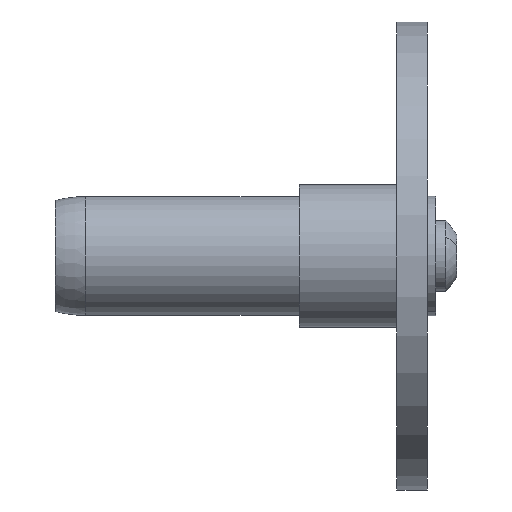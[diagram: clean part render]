
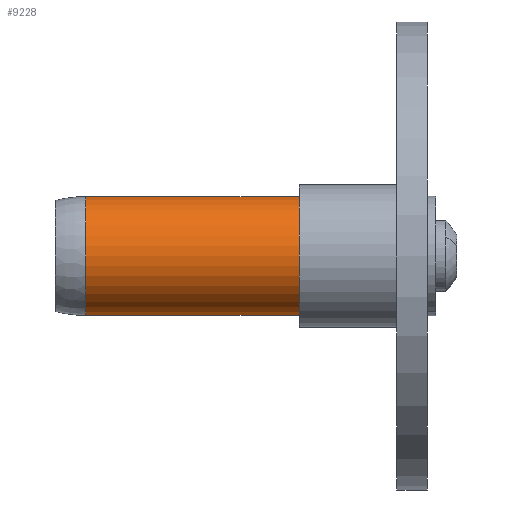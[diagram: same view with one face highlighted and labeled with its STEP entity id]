
A CAD part, front view. The second image highlights one B-rep face of the part: STEP entity #9228.
In plain terms, the highlighted cylindrical face has radius 9.271 mm (diameter 18.542 mm), a partial arc.
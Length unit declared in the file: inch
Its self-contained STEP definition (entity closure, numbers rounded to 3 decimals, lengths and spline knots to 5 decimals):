
#105 = DIRECTION ( 'NONE',  ( -1., 0., 0. ) ) ;
#482 = ORIENTED_EDGE ( 'NONE', *, *, #8325, .F. ) ;
#1712 = EDGE_LOOP ( 'NONE', ( #482, #10857, #10652, #13072 ) ) ;
#1782 = AXIS2_PLACEMENT_3D ( 'NONE', #8315, #12626, #2798 ) ;
#1838 = CARTESIAN_POINT ( 'NONE',  ( -2.0625, 0., -0.365 ) ) ;
#1948 = VERTEX_POINT ( 'NONE', #1838 ) ;
#1993 = VECTOR ( 'NONE', #105, 39.37008 ) ;
#2027 = VERTEX_POINT ( 'NONE', #7420 ) ;
#2798 = DIRECTION ( 'NONE',  ( 0., 0., 1. ) ) ;
#2830 = EDGE_CURVE ( 'NONE', #2027, #6862, #9760, .T. ) ;
#3890 = DIRECTION ( 'NONE',  ( -1., 0., 0. ) ) ;
#4309 = CARTESIAN_POINT ( 'NONE',  ( -2.25, 0., -0.365 ) ) ;
#4817 = FACE_OUTER_BOUND ( 'NONE', #1712, .T. ) ;
#5504 = CARTESIAN_POINT ( 'NONE',  ( -2.25, 0., 0.365 ) ) ;
#5703 = LINE ( 'NONE', #4309, #11426 ) ;
#5788 = DIRECTION ( 'NONE',  ( -1., 0., 0. ) ) ;
#5990 = CYLINDRICAL_SURFACE ( 'NONE', #12170, 0.365 ) ;
#6594 = CIRCLE ( 'NONE', #11689, 0.365 ) ;
#6862 = VERTEX_POINT ( 'NONE', #11989 ) ;
#6873 = CARTESIAN_POINT ( 'NONE',  ( -2.25, 0., 0. ) ) ;
#7420 = CARTESIAN_POINT ( 'NONE',  ( -0.75, 0., -0.365 ) ) ;
#7589 = EDGE_CURVE ( 'NONE', #1948, #11020, #6594, .T. ) ;
#8315 = CARTESIAN_POINT ( 'NONE',  ( -0.75, 0., 0. ) ) ;
#8325 = EDGE_CURVE ( 'NONE', #2027, #1948, #5703, .T. ) ;
#9163 = CARTESIAN_POINT ( 'NONE',  ( -2.0625, 0., 0.365 ) ) ;
#9228 = ADVANCED_FACE ( 'NONE', ( #4817 ), #5990, .T. ) ;
#9760 = CIRCLE ( 'NONE', #1782, 0.365 ) ;
#10349 = CARTESIAN_POINT ( 'NONE',  ( -2.0625, 0., 0. ) ) ;
#10652 = ORIENTED_EDGE ( 'NONE', *, *, #12067, .T. ) ;
#10787 = DIRECTION ( 'NONE',  ( -1., 0., 0. ) ) ;
#10857 = ORIENTED_EDGE ( 'NONE', *, *, #2830, .T. ) ;
#11020 = VERTEX_POINT ( 'NONE', #9163 ) ;
#11413 = DIRECTION ( 'NONE',  ( 0., 0., 1. ) ) ;
#11426 = VECTOR ( 'NONE', #10787, 39.37008 ) ;
#11689 = AXIS2_PLACEMENT_3D ( 'NONE', #10349, #3890, #11413 ) ;
#11766 = LINE ( 'NONE', #5504, #1993 ) ;
#11989 = CARTESIAN_POINT ( 'NONE',  ( -0.75, 0., 0.365 ) ) ;
#12067 = EDGE_CURVE ( 'NONE', #6862, #11020, #11766, .T. ) ;
#12170 = AXIS2_PLACEMENT_3D ( 'NONE', #6873, #5788, #13335 ) ;
#12626 = DIRECTION ( 'NONE',  ( -1., 0., 0. ) ) ;
#13072 = ORIENTED_EDGE ( 'NONE', *, *, #7589, .F. ) ;
#13335 = DIRECTION ( 'NONE',  ( 0., 0., 1. ) ) ;
